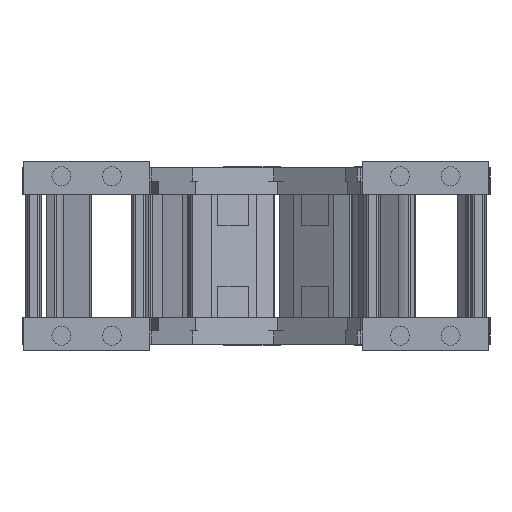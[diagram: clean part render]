
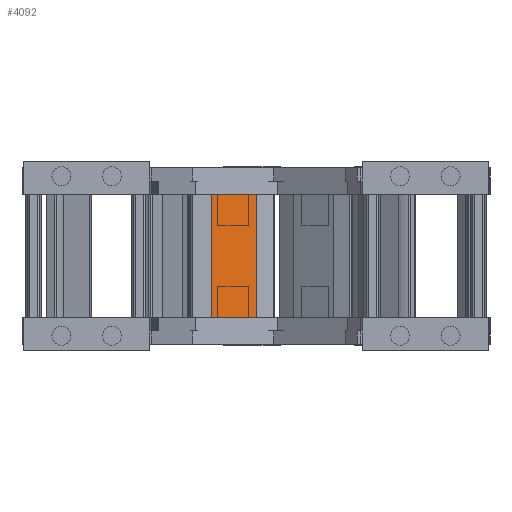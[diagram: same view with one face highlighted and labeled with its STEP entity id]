
A CAD part, left-side view. The second image highlights one B-rep face of the part: STEP entity #4092.
In plain terms, the highlighted planar face has unit normal (-0.962, -0.273, 0) as drawn and (0, -1, 0) by its records, which use the part's own axes.
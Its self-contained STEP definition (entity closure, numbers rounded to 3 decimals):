
#3646=DIRECTION('',(0.,0.,-1.));
#3647=VECTOR('',#3646,15.);
#3648=CARTESIAN_POINT('',(-13.5,0.,7.5));
#3649=LINE('',#3648,#3647);
#3733=DIRECTION('',(-1.,0.,0.));
#3734=VECTOR('',#3733,39.1);
#3735=CARTESIAN_POINT('',(25.6,0.,-7.5));
#3736=LINE('',#3735,#3734);
#3740=DIRECTION('',(1.,0.,0.));
#3741=VECTOR('',#3740,39.1);
#3742=CARTESIAN_POINT('',(-13.5,0.,7.5));
#3743=LINE('',#3742,#3741);
#3747=DIRECTION('',(0.,0.,-1.));
#3748=VECTOR('',#3747,15.);
#3749=CARTESIAN_POINT('',(25.6,0.,7.5));
#3750=LINE('',#3749,#3748);
#3865=CARTESIAN_POINT('',(25.6,0.,7.5));
#3866=CARTESIAN_POINT('',(25.6,0.,-7.5));
#3867=VERTEX_POINT('',#3865);
#3868=VERTEX_POINT('',#3866);
#3889=CARTESIAN_POINT('',(-13.5,0.,-7.5));
#3890=VERTEX_POINT('',#3889);
#3891=CARTESIAN_POINT('',(-13.5,0.,7.5));
#3892=VERTEX_POINT('',#3891);
#4079=CARTESIAN_POINT('',(-5.9,0.,0.));
#4080=DIRECTION('',(0.,1.,0.));
#4081=DIRECTION('',(1.,0.,0.));
#4082=AXIS2_PLACEMENT_3D('',#4079,#4080,#4081);
#4083=PLANE('',#4082);
#4084=ORIENTED_EDGE('',*,*,#4065,.T.);
#4085=ORIENTED_EDGE('',*,*,#3930,.F.);
#4087=ORIENTED_EDGE('',*,*,#4086,.T.);
#4089=ORIENTED_EDGE('',*,*,#4088,.T.);
#4090=EDGE_LOOP('',(#4084,#4085,#4087,#4089));
#4091=FACE_OUTER_BOUND('',#4090,.F.);
#4092=ADVANCED_FACE('',(#4091),#4083,.F.);
#3930=EDGE_CURVE('',#3892,#3890,#3649,.T.);
#4065=EDGE_CURVE('',#3868,#3890,#3736,.T.);
#4086=EDGE_CURVE('',#3892,#3867,#3743,.T.);
#4088=EDGE_CURVE('',#3867,#3868,#3750,.T.);
